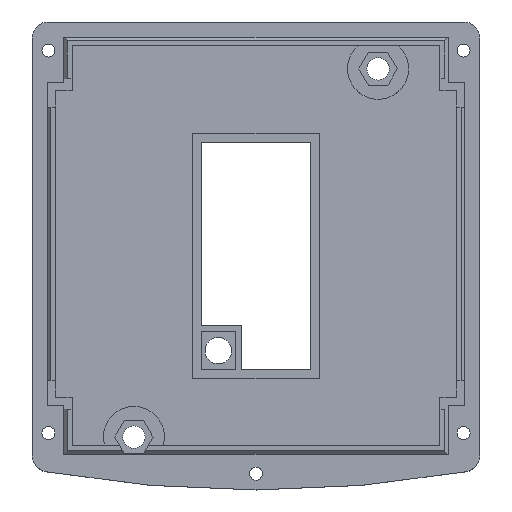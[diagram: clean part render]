
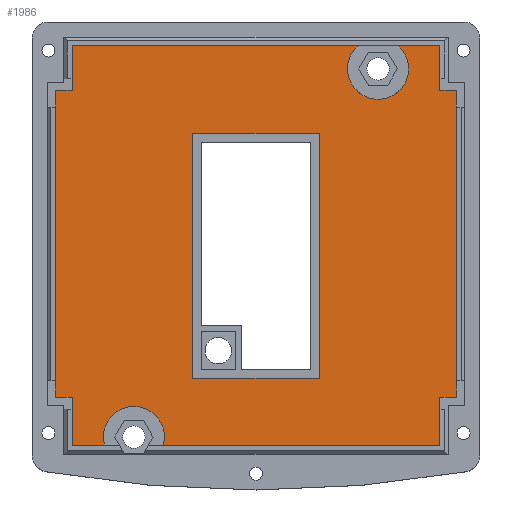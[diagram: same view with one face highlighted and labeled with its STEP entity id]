
A CAD part, top view. The second image highlights one B-rep face of the part: STEP entity #1986.
In plain terms, the highlighted planar face has unit normal (0, 0, 1).
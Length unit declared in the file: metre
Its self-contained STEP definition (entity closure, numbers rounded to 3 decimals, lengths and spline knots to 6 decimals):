
#32=CIRCLE('',#2108,0.0075);
#33=CIRCLE('',#2109,0.0075);
#67=ORIENTED_EDGE('',*,*,#635,.F.);
#68=ORIENTED_EDGE('',*,*,#636,.F.);
#69=ORIENTED_EDGE('',*,*,#637,.T.);
#70=ORIENTED_EDGE('',*,*,#638,.T.);
#71=ORIENTED_EDGE('',*,*,#639,.F.);
#72=ORIENTED_EDGE('',*,*,#640,.F.);
#73=ORIENTED_EDGE('',*,*,#641,.F.);
#74=ORIENTED_EDGE('',*,*,#642,.F.);
#75=ORIENTED_EDGE('',*,*,#643,.F.);
#76=ORIENTED_EDGE('',*,*,#644,.F.);
#77=ORIENTED_EDGE('',*,*,#645,.T.);
#78=ORIENTED_EDGE('',*,*,#646,.F.);
#79=ORIENTED_EDGE('',*,*,#647,.T.);
#80=ORIENTED_EDGE('',*,*,#648,.T.);
#81=ORIENTED_EDGE('',*,*,#649,.F.);
#82=ORIENTED_EDGE('',*,*,#650,.T.);
#83=ORIENTED_EDGE('',*,*,#651,.F.);
#84=ORIENTED_EDGE('',*,*,#652,.T.);
#85=ORIENTED_EDGE('',*,*,#653,.T.);
#86=ORIENTED_EDGE('',*,*,#654,.T.);
#635=EDGE_CURVE('',#919,#920,#1114,.T.);
#636=EDGE_CURVE('',#921,#919,#1115,.T.);
#637=EDGE_CURVE('',#921,#922,#1116,.T.);
#638=EDGE_CURVE('',#922,#920,#1117,.T.);
#639=EDGE_CURVE('',#923,#924,#1118,.T.);
#640=EDGE_CURVE('',#925,#923,#1119,.T.);
#641=EDGE_CURVE('',#926,#925,#32,.T.);
#642=EDGE_CURVE('',#927,#926,#1120,.T.);
#643=EDGE_CURVE('',#928,#927,#1121,.T.);
#644=EDGE_CURVE('',#929,#928,#1122,.T.);
#645=EDGE_CURVE('',#929,#930,#1123,.T.);
#646=EDGE_CURVE('',#931,#930,#1124,.T.);
#647=EDGE_CURVE('',#931,#932,#1125,.T.);
#648=EDGE_CURVE('',#932,#933,#1126,.T.);
#649=EDGE_CURVE('',#934,#933,#33,.T.);
#650=EDGE_CURVE('',#934,#935,#1127,.T.);
#651=EDGE_CURVE('',#936,#935,#1128,.T.);
#652=EDGE_CURVE('',#936,#937,#1129,.T.);
#653=EDGE_CURVE('',#937,#938,#1130,.T.);
#654=EDGE_CURVE('',#938,#924,#1131,.T.);
#919=VERTEX_POINT('',#2790);
#920=VERTEX_POINT('',#2791);
#921=VERTEX_POINT('',#2793);
#922=VERTEX_POINT('',#2795);
#923=VERTEX_POINT('',#2798);
#924=VERTEX_POINT('',#2799);
#925=VERTEX_POINT('',#2801);
#926=VERTEX_POINT('',#2803);
#927=VERTEX_POINT('',#2805);
#928=VERTEX_POINT('',#2807);
#929=VERTEX_POINT('',#2809);
#930=VERTEX_POINT('',#2811);
#931=VERTEX_POINT('',#2813);
#932=VERTEX_POINT('',#2815);
#933=VERTEX_POINT('',#2817);
#934=VERTEX_POINT('',#2819);
#935=VERTEX_POINT('',#2821);
#936=VERTEX_POINT('',#2823);
#937=VERTEX_POINT('',#2825);
#938=VERTEX_POINT('',#2827);
#1114=LINE('',#2789,#1363);
#1115=LINE('',#2792,#1364);
#1116=LINE('',#2794,#1365);
#1117=LINE('',#2796,#1366);
#1118=LINE('',#2797,#1367);
#1119=LINE('',#2800,#1368);
#1120=LINE('',#2804,#1369);
#1121=LINE('',#2806,#1370);
#1122=LINE('',#2808,#1371);
#1123=LINE('',#2810,#1372);
#1124=LINE('',#2812,#1373);
#1125=LINE('',#2814,#1374);
#1126=LINE('',#2816,#1375);
#1127=LINE('',#2820,#1376);
#1128=LINE('',#2822,#1377);
#1129=LINE('',#2824,#1378);
#1130=LINE('',#2826,#1379);
#1131=LINE('',#2828,#1380);
#1363=VECTOR('',#2254,1.);
#1364=VECTOR('',#2255,1.);
#1365=VECTOR('',#2256,1.);
#1366=VECTOR('',#2257,1.);
#1367=VECTOR('',#2258,1.);
#1368=VECTOR('',#2259,1.);
#1369=VECTOR('',#2262,1.);
#1370=VECTOR('',#2263,1.);
#1371=VECTOR('',#2264,1.);
#1372=VECTOR('',#2265,1.);
#1373=VECTOR('',#2266,1.);
#1374=VECTOR('',#2267,1.);
#1375=VECTOR('',#2268,1.);
#1376=VECTOR('',#2271,1.);
#1377=VECTOR('',#2272,1.);
#1378=VECTOR('',#2273,1.);
#1379=VECTOR('',#2274,1.);
#1380=VECTOR('',#2275,1.);
#1612=EDGE_LOOP('',(#67,#68,#69,#70));
#1613=EDGE_LOOP('',(#71,#72,#73,#74,#75,#76,#77,#78,#79,#80,#81,#82,#83,
#84,#85,#86));
#1755=FACE_BOUND('',#1612,.T.);
#1756=FACE_BOUND('',#1613,.T.);
#1898=PLANE('',#2107);
#1986=ADVANCED_FACE('',(#1755,#1756),#1898,.T.);
#2107=AXIS2_PLACEMENT_3D('',#2788,#2252,#2253);
#2108=AXIS2_PLACEMENT_3D('',#2802,#2260,#2261);
#2109=AXIS2_PLACEMENT_3D('',#2818,#2269,#2270);
#2252=DIRECTION('',(0.,0.,1.));
#2253=DIRECTION('',(1.,0.,0.));
#2254=DIRECTION('',(1.,0.,0.));
#2255=DIRECTION('',(0.,-1.,0.));
#2256=DIRECTION('',(1.,0.,0.));
#2257=DIRECTION('',(0.,-1.,0.));
#2258=DIRECTION('',(0.,-1.,0.));
#2259=DIRECTION('',(1.,0.,0.));
#2260=DIRECTION('',(0.,0.,1.));
#2261=DIRECTION('',(1.,0.,0.));
#2262=DIRECTION('',(1.,0.,0.));
#2263=DIRECTION('',(0.,1.,0.));
#2264=DIRECTION('',(1.,0.,0.));
#2265=DIRECTION('',(0.,-1.,0.));
#2266=DIRECTION('',(-1.,0.,0.));
#2267=DIRECTION('',(0.,-1.,0.));
#2268=DIRECTION('',(1.,0.,0.));
#2269=DIRECTION('',(0.,0.,1.));
#2270=DIRECTION('',(1.,0.,0.));
#2271=DIRECTION('',(1.,0.,0.));
#2272=DIRECTION('',(0.,-1.,0.));
#2273=DIRECTION('',(1.,0.,0.));
#2274=DIRECTION('',(0.,1.,0.));
#2275=DIRECTION('',(-1.,0.,0.));
#2788=CARTESIAN_POINT('',(0.,0.162,0.0018));
#2789=CARTESIAN_POINT('',(0.,0.0275,0.0018));
#2790=CARTESIAN_POINT('',(-0.0155,0.0275,0.0018));
#2791=CARTESIAN_POINT('',(0.0155,0.0275,0.0018));
#2792=CARTESIAN_POINT('',(-0.0155,0.162,0.0018));
#2793=CARTESIAN_POINT('',(-0.0155,0.0875,0.0018));
#2794=CARTESIAN_POINT('',(0.,0.0875,0.0018));
#2795=CARTESIAN_POINT('',(0.0155,0.0875,0.0018));
#2796=CARTESIAN_POINT('',(0.0155,0.162,0.0018));
#2797=CARTESIAN_POINT('',(0.0452,0.1045,0.0018));
#2798=CARTESIAN_POINT('',(0.0452,0.1092,0.0018));
#2799=CARTESIAN_POINT('',(0.0452,0.0982,0.0018));
#2800=CARTESIAN_POINT('',(0.,0.1092,0.0018));
#2801=CARTESIAN_POINT('',(0.034874,0.1092,0.0018));
#2802=CARTESIAN_POINT('',(0.03,0.1035,0.0018));
#2803=CARTESIAN_POINT('',(0.025126,0.1092,0.0018));
#2804=CARTESIAN_POINT('',(0.,0.1092,0.0018));
#2805=CARTESIAN_POINT('',(-0.0452,0.1092,0.0018));
#2806=CARTESIAN_POINT('',(-0.0452,0.1045,0.0018));
#2807=CARTESIAN_POINT('',(-0.0452,0.0982,0.0018));
#2808=CARTESIAN_POINT('',(-0.05,0.0982,0.0018));
#2809=CARTESIAN_POINT('',(-0.0492,0.0982,0.0018));
#2810=CARTESIAN_POINT('',(-0.0492,0.061,0.0018));
#2811=CARTESIAN_POINT('',(-0.0492,0.0228,0.0018));
#2812=CARTESIAN_POINT('',(-0.05,0.0228,0.0018));
#2813=CARTESIAN_POINT('',(-0.0452,0.0228,0.0018));
#2814=CARTESIAN_POINT('',(-0.0452,0.014,0.0018));
#2815=CARTESIAN_POINT('',(-0.0452,0.0108,0.0018));
#2816=CARTESIAN_POINT('',(-0.040146,0.0108,0.0018));
#2817=CARTESIAN_POINT('',(-0.03717,0.0108,0.0018));
#2818=CARTESIAN_POINT('',(-0.03,0.013,0.0018));
#2819=CARTESIAN_POINT('',(-0.02283,0.0108,0.0018));
#2820=CARTESIAN_POINT('',(0.010146,0.0108,0.0018));
#2821=CARTESIAN_POINT('',(0.0452,0.0108,0.0018));
#2822=CARTESIAN_POINT('',(0.0452,0.014,0.0018));
#2823=CARTESIAN_POINT('',(0.0452,0.0228,0.0018));
#2824=CARTESIAN_POINT('',(0.05,0.0228,0.0018));
#2825=CARTESIAN_POINT('',(0.0492,0.0228,0.0018));
#2826=CARTESIAN_POINT('',(0.0492,0.0205,0.0018));
#2827=CARTESIAN_POINT('',(0.0492,0.0982,0.0018));
#2828=CARTESIAN_POINT('',(0.05,0.0982,0.0018));
